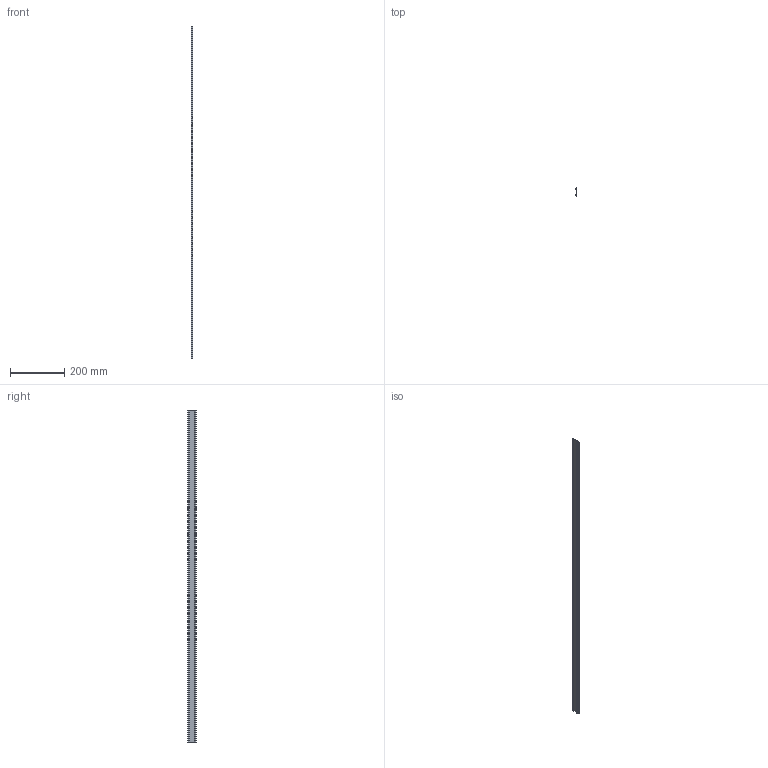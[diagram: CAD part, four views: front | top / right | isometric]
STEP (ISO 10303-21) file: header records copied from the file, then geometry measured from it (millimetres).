
FILE_DESCRIPTION((''),'2;1');
FILE_NAME('PX26191','2016-06-02T',('adam.dellomodarme'),(''),'PRO/ENGINEER BY PARAMETRIC TECHNOLOGY CORPORATION, 2012420','PRO/ENGINEER BY PARAMETRIC TECHNOLOGY CORPORATION, 2012420','');
FILE_SCHEMA(('CONFIG_CONTROL_DESIGN'));
Length unit declared in the file: inch
Products named in the file (1): PX26191
Bounding box: 6.7 x 33 x 1219.2 mm (x, y, z)
Volume: 107087.6 mm3; surface area: 110701 mm2
Topology: 1 solids, 1 shells, 18 faces, 48 edges, 32 vertices
Faces by surface type: plane 14, cylinder 4
Entity records: 600 total; most frequent: CARTESIAN_POINT 98, ORIENTED_EDGE 96, DIRECTION 92, EDGE_CURVE 48, VECTOR 40, LINE 40, VERTEX_POINT 32, AXIS2_PLACEMENT_3D 26
